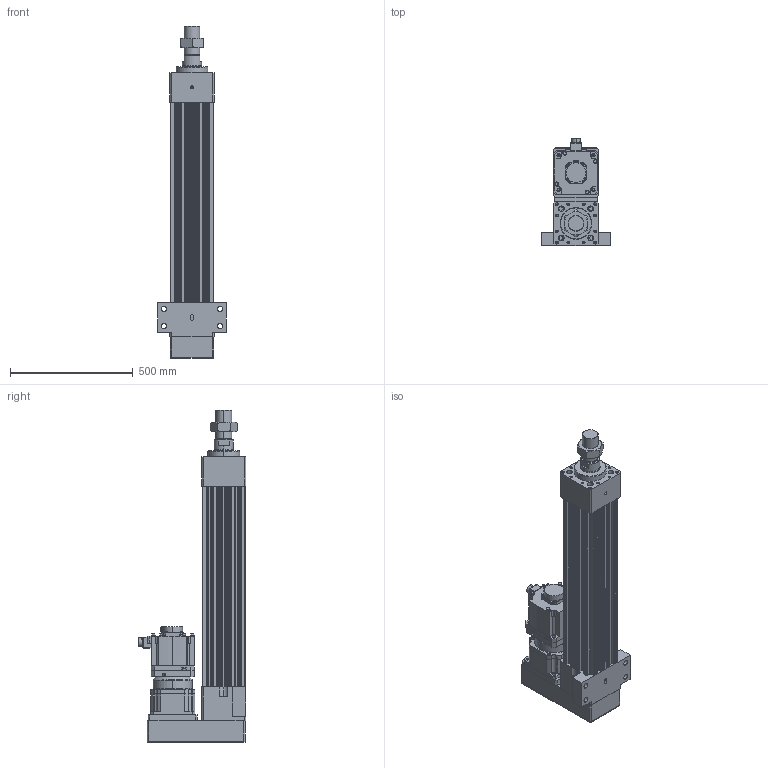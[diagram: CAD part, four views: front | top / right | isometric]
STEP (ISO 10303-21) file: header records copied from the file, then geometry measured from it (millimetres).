
FILE_DESCRIPTION (( 'STEP AP203' ), '1' );
FILE_NAME ('HES180HS-P500-W050G00-M-FFC.STEP', '2023-02-01T07:23:58', ( 'tms' ), ( '' ), 'SwSTEP 2.0', 'SolidWorks 2013', '' );
FILE_SCHEMA (( 'CONFIG_CONTROL_DESIGN' ));
Length unit declared in the file: millimetre
Products named in the file (9): AB1801; AB180-003[HG-SR702B]; P1301600001; HES180HS-P500-W050G00-M-FFC; P0403600401; HES180-P500-G180-FFC; HG-SR502; M64X2.0P; HES180 ROD M ST500
Assembly tree (8 placements, depth 3):
  HES180HS-P500-W050G00-M-FFC
    HES180-P500-G180-FFC
    HES180 ROD M ST500
    M64X2.0P
    AB180-003[HG-SR702B]
      AB1801
      P1301600001
      P0403600401
    HG-SR502
Bounding box: 280 x 438.85 x 1352 mm (x, y, z)
Volume: 29871963.2 mm3; surface area: 2617657.2 mm2
Topology: 4 solids, 19 shells, 1474 faces, 3821 edges, 2463 vertices
Faces by surface type: cylinder 686, plane 553, cone 168, bspline 63, torus 4
Entity records: 53682 total; most frequent: CARTESIAN_POINT 16162, DIRECTION 7905, ORIENTED_EDGE 7498, EDGE_CURVE 3773, AXIS2_PLACEMENT_3D 2986, VERTEX_POINT 2463, LINE 1933, VECTOR 1933
